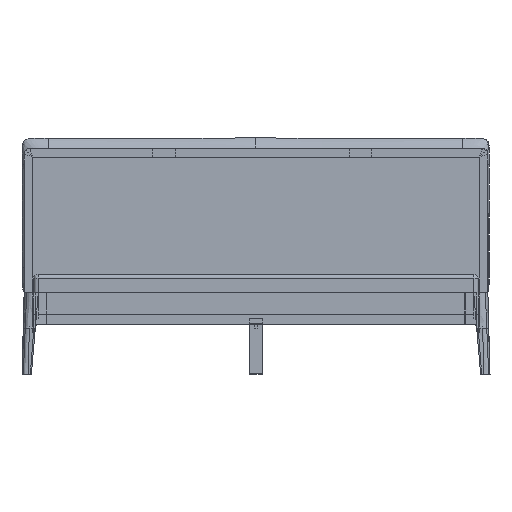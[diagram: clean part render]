
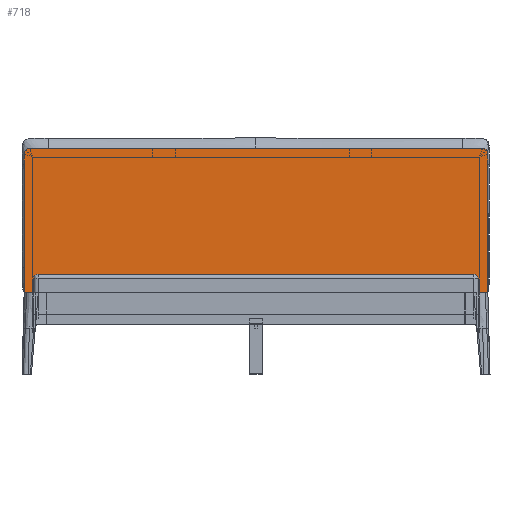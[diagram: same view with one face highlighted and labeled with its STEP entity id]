
A CAD part, front view. The second image highlights one B-rep face of the part: STEP entity #718.
In plain terms, the highlighted planar face has unit normal (0, -1, 0).
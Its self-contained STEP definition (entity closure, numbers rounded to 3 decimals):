
#718=ADVANCED_FACE('',(#1544),#11524,.T.);
#1544=FACE_OUTER_BOUND('',#2373,.T.);
#2373=EDGE_LOOP('',(#4316,#4317,#4318,#4319,#4320,#4321));
#4316=ORIENTED_EDGE('',*,*,#7242,.T.);
#4317=ORIENTED_EDGE('',*,*,#7196,.T.);
#4318=ORIENTED_EDGE('',*,*,#7199,.T.);
#4319=ORIENTED_EDGE('',*,*,#7241,.T.);
#4320=ORIENTED_EDGE('',*,*,#7226,.T.);
#4321=ORIENTED_EDGE('',*,*,#7222,.T.);
#7196=EDGE_CURVE('',#10547,#10549,#8450,.T.);
#7199=EDGE_CURVE('',#10549,#10550,#8453,.T.);
#7222=EDGE_CURVE('',#10566,#10565,#8463,.T.);
#7226=EDGE_CURVE('',#10567,#10566,#8467,.T.);
#7241=EDGE_CURVE('',#10550,#10567,#9121,.T.);
#7242=EDGE_CURVE('',#10565,#10547,#9122,.T.);
#8450=(
BOUNDED_CURVE()
B_SPLINE_CURVE(2,(#106845,#106846,#106847),.UNSPECIFIED.,.F.,.F.)
B_SPLINE_CURVE_WITH_KNOTS((3,3),(-10101.08,-9476.08),
 .UNSPECIFIED.)
CURVE()
GEOMETRIC_REPRESENTATION_ITEM()
RATIONAL_B_SPLINE_CURVE((1.,1.,1.))
REPRESENTATION_ITEM('')
);
#8453=(
BOUNDED_CURVE()
B_SPLINE_CURVE(2,(#106853,#106854,#106855),.UNSPECIFIED.,.F.,.F.)
B_SPLINE_CURVE_WITH_KNOTS((3,3),(-9476.08,-9436.81),
 .UNSPECIFIED.)
CURVE()
GEOMETRIC_REPRESENTATION_ITEM()
RATIONAL_B_SPLINE_CURVE((1.,0.707,1.))
REPRESENTATION_ITEM('')
);
#8463=(
BOUNDED_CURVE()
B_SPLINE_CURVE(2,(#106936,#106937,#106938),.UNSPECIFIED.,.F.,.F.)
B_SPLINE_CURVE_WITH_KNOTS((3,3),(-12612.08,-11987.08),
 .UNSPECIFIED.)
CURVE()
GEOMETRIC_REPRESENTATION_ITEM()
RATIONAL_B_SPLINE_CURVE((1.,1.,1.))
REPRESENTATION_ITEM('')
);
#8467=(
BOUNDED_CURVE()
B_SPLINE_CURVE(2,(#106946,#106947,#106948),.UNSPECIFIED.,.F.,.F.)
B_SPLINE_CURVE_WITH_KNOTS((3,3),(-7600.81,-7561.54),
 .UNSPECIFIED.)
CURVE()
GEOMETRIC_REPRESENTATION_ITEM()
RATIONAL_B_SPLINE_CURVE((1.,0.707,1.))
REPRESENTATION_ITEM('')
);
#9121=B_SPLINE_CURVE_WITH_KNOTS('',1,(#107033,#107034),.UNSPECIFIED.,.F.,
 .F.,(2,2),(0.,2036.),.UNSPECIFIED.);
#9122=B_SPLINE_CURVE_WITH_KNOTS('',1,(#107035,#107036),.UNSPECIFIED.,.F.,
 .F.,(2,2),(0.,2086.),.UNSPECIFIED.);
#10547=VERTEX_POINT('',#106730);
#10549=VERTEX_POINT('',#106732);
#10550=VERTEX_POINT('',#106733);
#10565=VERTEX_POINT('',#106748);
#10566=VERTEX_POINT('',#106749);
#10567=VERTEX_POINT('',#106750);
#11524=PLANE('',#12128);
#12128=AXIS2_PLACEMENT_3D('',#106712,#12677,$);
#12677=DIRECTION('',(0.,-1.,0.));
#106712=CARTESIAN_POINT('',(1095.292,-1499.266,1080.));
#106730=CARTESIAN_POINT('',(1043.,-1499.266,365.));
#106732=CARTESIAN_POINT('',(1043.,-1499.266,990.));
#106733=CARTESIAN_POINT('',(1018.,-1499.266,1015.));
#106748=CARTESIAN_POINT('',(-1043.,-1499.266,365.));
#106749=CARTESIAN_POINT('',(-1043.,-1499.266,990.));
#106750=CARTESIAN_POINT('',(-1018.,-1499.266,1015.));
#106845=CARTESIAN_POINT('',(1043.,-1499.266,365.));
#106846=CARTESIAN_POINT('',(1043.,-1499.266,677.5));
#106847=CARTESIAN_POINT('',(1043.,-1499.266,990.));
#106853=CARTESIAN_POINT('',(1043.,-1499.266,990.));
#106854=CARTESIAN_POINT('',(1043.,-1499.266,1015.));
#106855=CARTESIAN_POINT('',(1018.,-1499.266,1015.));
#106936=CARTESIAN_POINT('',(-1043.,-1499.266,990.));
#106937=CARTESIAN_POINT('',(-1043.,-1499.266,677.5));
#106938=CARTESIAN_POINT('',(-1043.,-1499.266,365.));
#106946=CARTESIAN_POINT('',(-1018.,-1499.266,1015.));
#106947=CARTESIAN_POINT('',(-1043.,-1499.266,1015.));
#106948=CARTESIAN_POINT('',(-1043.,-1499.266,990.));
#107033=CARTESIAN_POINT('',(1018.,-1499.266,1015.));
#107034=CARTESIAN_POINT('',(-1018.,-1499.266,1015.));
#107035=CARTESIAN_POINT('',(-1043.,-1499.266,365.));
#107036=CARTESIAN_POINT('',(1043.,-1499.266,365.));
